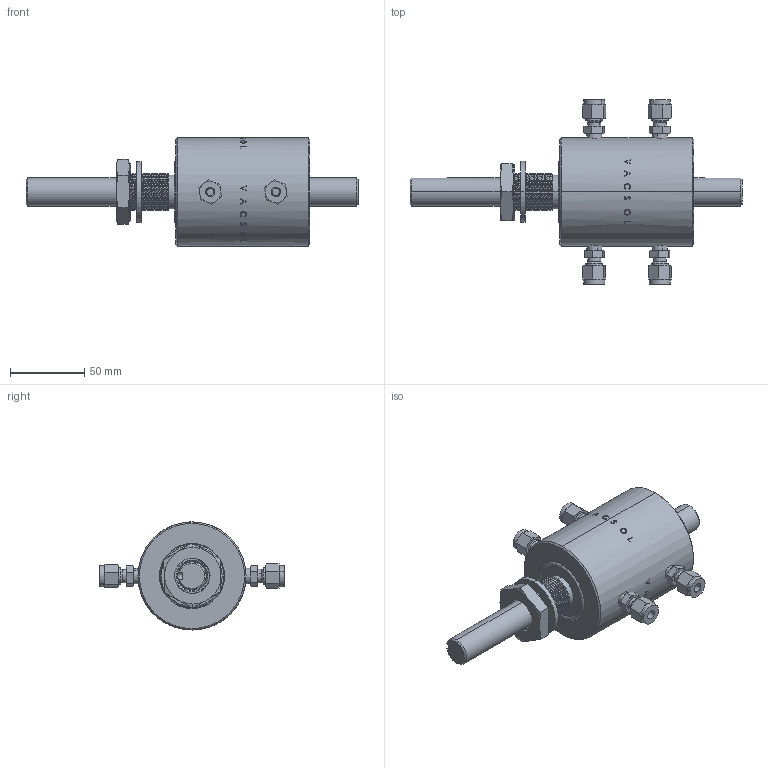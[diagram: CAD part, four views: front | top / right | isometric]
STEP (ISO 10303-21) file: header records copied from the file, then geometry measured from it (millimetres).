
FILE_DESCRIPTION (( 'STEP AP214' ), '1' );
FILE_NAME ('61041.STEP', '2014-07-18T05:49:13', ( '' ), ( '' ), 'SwSTEP 2.0', 'SolidWorks 2012', '' );
FILE_SCHEMA (( 'AUTOMOTIVE_DESIGN' ));
Length unit declared in the file: millimetre
Products named in the file (5): Washer; 61041; Nut; p61041___; SS_400_1_2___
Assembly tree (7 placements, depth 2):
  61041
    SS_400_1_2___  x4
    p61041___
    Washer
    Nut
Bounding box: 223.83 x 124.5 x 72.9 mm (x, y, z)
Volume: 444322.1 mm3; surface area: 57322.2 mm2
Topology: 8 solids, 8 shells, 614 faces, 1503 edges, 951 vertices
Faces by surface type: cylinder 174, cone 151, plane 145, bspline 144
Entity records: 34665 total; most frequent: CARTESIAN_POINT 25621, ORIENTED_EDGE 2196, DIRECTION 1267, EDGE_CURVE 1098, VERTEX_POINT 714, EDGE_LOOP 470, AXIS2_PLACEMENT_3D 450, ADVANCED_FACE 428
